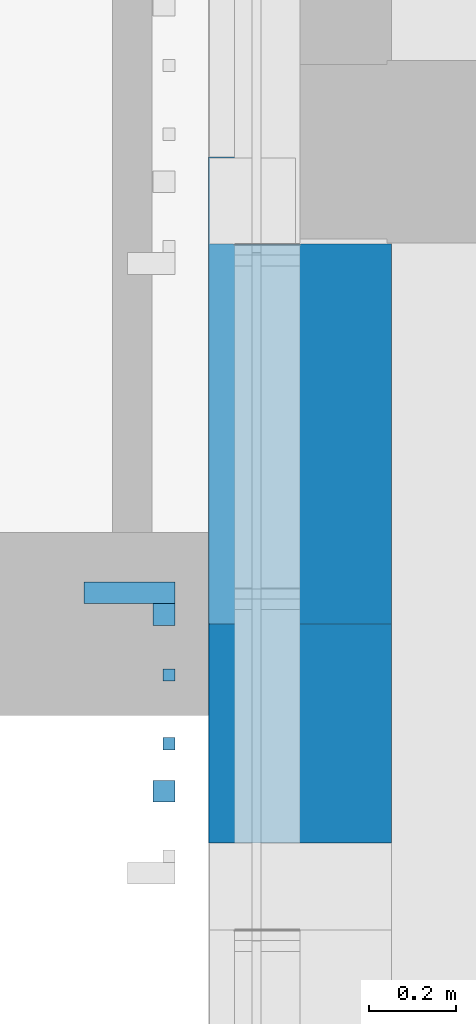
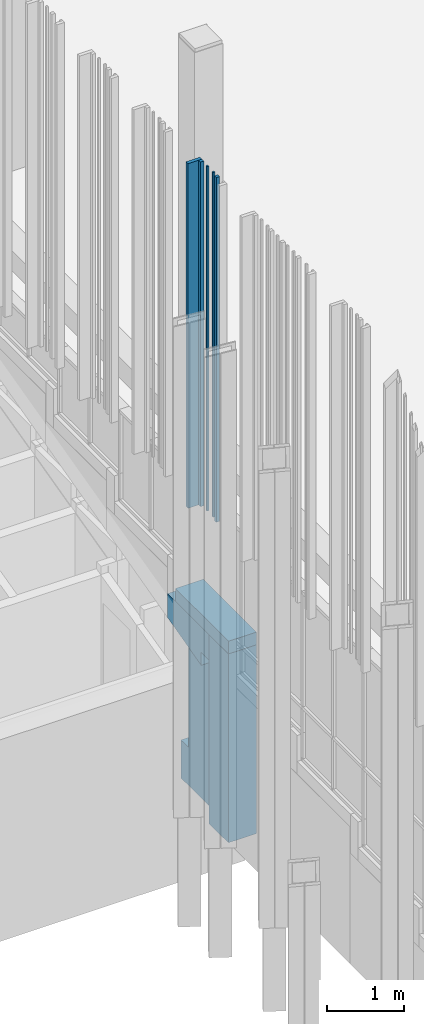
# One storey, part 117 of 390: 9 walls.
"""IFC2X3 building model written with IfcOpenShell, lengths in millimetres."""

from ifc_helpers import new_model, entity, si_unit, converted_unit, derived_unit, money_unit, direction, frame, origin_with_axes, place, context, subcontext, project, spatial, faceted_brep, material, material_list, type_object, element, save


model = new_model("IFC2X3")

# Units and contexts
model_context = context("Model", 3, precision=1e-05, world=origin_with_axes(), true_north=direction((0.0, 1.0)))
body_context = subcontext(model_context, "Body", "Model", "MODEL_VIEW")
ifc_project = project(units=[si_unit("LENGTHUNIT", "METRE", prefix="MILLI"), si_unit("AREAUNIT", "SQUARE_METRE"), si_unit("VOLUMEUNIT", "CUBIC_METRE"), converted_unit("PLANEANGLEUNIT", "DEGREE", entity("IfcPlaneAngleMeasure", 0.0174532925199), si_unit("PLANEANGLEUNIT", "RADIAN"), dimensions=[0, 0, 0, 0, 0, 0, 0]), si_unit("SOLIDANGLEUNIT", "STERADIAN"), money_unit("EUR"), converted_unit("TIMEUNIT", "Year", entity("IfcTimeMeasure", 31556926.0), si_unit("TIMEUNIT", "SECOND"), dimensions=[0, 0, 1, 0, 0, 0, 0]), si_unit("MASSUNIT", "GRAM", prefix="KILO"), si_unit("THERMODYNAMICTEMPERATUREUNIT", "DEGREE_CELSIUS"), si_unit("LUMINOUSINTENSITYUNIT", "LUMEN"), si_unit("ENERGYUNIT", "JOULE", prefix="MEGA"), derived_unit("THERMALCONDUCTANCEUNIT", [(si_unit("POWERUNIT", "WATT"), 1), (si_unit("LENGTHUNIT", "METRE"), -1), (si_unit("THERMODYNAMICTEMPERATUREUNIT", "KELVIN"), -1)]), derived_unit("SPECIFICHEATCAPACITYUNIT", [(si_unit("ENERGYUNIT", "JOULE"), 1), (si_unit("MASSUNIT", "GRAM", prefix="KILO"), -1), (si_unit("THERMODYNAMICTEMPERATUREUNIT", "KELVIN"), -1)]), derived_unit("MASSDENSITYUNIT", [(si_unit("MASSUNIT", "GRAM", prefix="KILO"), 1), (si_unit("VOLUMEUNIT", "CUBIC_METRE"), -1)])], contexts=[model_context])

# Site, building, storey
site_placement = place(None, origin_with_axes())
site = spatial("IfcSite", under=ifc_project, at=site_placement, Name="Site", CompositionType="ELEMENT")
building_placement = place(site_placement, origin_with_axes())
building = spatial("IfcBuilding", under=site, at=building_placement, Name="Building", CompositionType="ELEMENT")
storey_placement = place(building_placement, origin_with_axes())
storey = spatial("IfcBuildingStorey", under=building, at=storey_placement, Name="1 korrus", CompositionType="ELEMENT", Elevation=0.0)

# Walls
ifc_material_1 = material(Name="Krohv - Lubjakivi")
ifc_material_2 = material(Name="Raudbetoon - Konstruktsioon")
ifc_material_list_1 = material_list([ifc_material_1, ifc_material_2, ifc_material_1])
wall_type_1 = type_object("IfcWallType", Name="SS-10", PredefinedType="NOTDEFINED")
wall_1_placement = place(storey_placement, frame((122909.999995, 58590.0000093, -620.0), z_axis=(0.0, 0.0, 1.0), x_axis=(0.0, 1.0, 0.0)))
element("IfcWall", 1, at=wall_1_placement, inside=storey, type_object=wall_type_1, material=ifc_material_list_1, Name="SS-10", context=body_context, shape_type="Brep", body=[
    faceted_brep([(875.000002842, 219.999998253, 2551.52554973), (875.000002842, 210.000000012, 2551.52554973), (875.000002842, 210.000000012, 600.0), (875.000002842, 219.999998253, 600.0), (-2.80664380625e-09, 210.0, 2323.43989425), (-2.94164692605e-09, 220.0, 2323.43989425), (-2.81374923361e-09, 210.0, 0.0), (1072.56855077, 210.000000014, 0.0), (1072.56855077, 209.999998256, 600.0), (885.000002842, 209.999998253, 600.0), (1072.56855077, 219.999998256, 600.0), (1072.56855077, 220.000000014, 0.0), (-2.9487523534e-09, 220.0, 0.0)], [[[0, 1, 2, 3]], [[4, 1, 0, 5]], [[1, 4, 6, 7, 8, 9, 2]], [[2, 9, 8, 10, 3]], [[5, 0, 3, 10, 11, 12]], [[4, 5, 12, 6]], [[6, 12, 11, 7]], [[11, 10, 8, 7]]]),
    faceted_brep([(885.000002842, 209.999998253, 2554.13224292), (885.000002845, 10.0000000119, 2554.13224291), (885.000002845, 10.0000000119, 600.0), (885.000002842, 209.999998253, 600.0), (-1.20792265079e-10, 10.0, 2323.43989424), (-2.80664380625e-09, 210.0, 2323.43989425), (-1.27897692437e-10, 10.0, 0.0), (1072.56855077, 10.0000000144, 0.0), (1072.56855077, 10.0000000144, 600.0), (1072.56855077, 209.999998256, 600.0), (1072.56855077, 210.000000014, 0.0), (-2.81374923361e-09, 210.0, 0.0)], [[[0, 1, 2, 3]], [[4, 1, 0, 5]], [[1, 4, 6, 7, 8, 2]], [[3, 2, 8, 9]], [[5, 0, 3, 9, 10, 11]], [[4, 5, 11, 6]], [[6, 11, 10, 7]], [[10, 9, 8, 7]]]),
    faceted_brep([(875.000002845, 9.99999993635, 2551.52554971), (875.000002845, 1.17381659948e-08, 2551.52554971), (875.000002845, 1.17381659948e-08, 600.0), (875.000002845, 9.99999707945, 600.0), (0.0, 0.0, 2323.43989424), (-1.20792265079e-10, 9.99999963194, 2323.43989424), (0.0, 0.0, 400.0), (1072.56855077, 1.43813849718e-08, 400.0), (1072.56855077, 1.43813849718e-08, 600.0), (1072.56855077, 9.9999973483, 600.0), (1072.56855077, 9.99999708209, 400.0), (-1.27897692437e-10, 9.99999709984, 400.0)], [[[0, 1, 2, 3]], [[4, 1, 0, 5]], [[1, 4, 6, 7, 8, 2]], [[8, 9, 3, 2]], [[5, 0, 3, 9, 10, 11]], [[4, 5, 11, 6]], [[6, 11, 10, 7]], [[10, 9, 8, 7]]]),
])
ifc_material_3 = material(Name="Membraan - Veekindel")
ifc_material_4 = material(Name="Soojustus - Plastik Kõva")
ifc_material_list_2 = material_list([ifc_material_3, ifc_material_3, ifc_material_4, ifc_material_4, ifc_material_2, ifc_material_1])
wall_type_2 = type_object("IfcWallType", Name="VS-03", PredefinedType="NOTDEFINED")
wall_2_placement = place(storey_placement, frame((122909.999995, 58590.0000093, 1703.43989424), z_axis=(0.0, 0.0, 1.0), x_axis=(0.0, 1.0, 0.0)))
element("IfcWall", 2, at=wall_2_placement, inside=storey, type_object=wall_type_2, material=ifc_material_list_2, Name="VS-03", context=body_context, shape_type="Brep", body=[
    faceted_brep([(199.999999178, 415.000000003, 52.1338637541), (1072.56855076, 415.000000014, 279.585714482), (1072.56855076, 415.000000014, 656.560105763), (-5.563549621e-09, 415.0, 656.560105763), (-2.15836593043e-06, 415.0, 257.890913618), (199.999997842, 415.000000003, 257.890913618), (1072.56855076, 420.000000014, 279.585714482), (199.999999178, 420.000000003, 52.1338637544), (1072.56855076, 420.000000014, 656.560105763), (-5.62749846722e-09, 420.0, 656.560105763), (-2.15842987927e-06, 420.0, 257.890913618), (199.999997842, 420.000000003, 257.890913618)], [[[0, 1, 2, 3, 4, 5]], [[6, 1, 0, 7]], [[1, 6, 8, 2]], [[9, 3, 2, 8]], [[9, 10, 4, 3]], [[11, 5, 4, 10]], [[7, 0, 5, 11]], [[6, 7, 11, 10, 9, 8]]]),
    faceted_brep([(199.999999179, 410.000000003, 52.1338637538), (1072.56855076, 410.000000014, 279.585714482), (1072.56855076, 410.000000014, 656.560105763), (-5.49249534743e-09, 410.0, 656.560105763), (-2.15829487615e-06, 410.0, 257.890913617), (199.999997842, 410.000000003, 257.890913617), (1072.56855076, 415.000000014, 279.585714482), (199.999999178, 415.000000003, 52.1338637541), (1072.56855076, 415.000000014, 656.560105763), (-5.563549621e-09, 415.0, 656.560105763), (-2.15836593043e-06, 415.0, 257.890913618), (199.999997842, 415.000000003, 257.890913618)], [[[0, 1, 2, 3, 4, 5]], [[6, 1, 0, 7]], [[1, 6, 8, 2]], [[9, 3, 2, 8]], [[9, 10, 4, 3]], [[11, 5, 4, 10]], [[7, 0, 5, 11]], [[6, 7, 11, 10, 9, 8]]]),
    faceted_brep([(199.999999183, 360.000000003, 52.1338637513), (1072.56855076, 360.000000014, 279.585714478), (1072.56855076, 360.000000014, 656.560105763), (-4.82458517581e-09, 360.0, 656.560105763), (-2.15762696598e-06, 360.0, 257.89091361), (199.999997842, 360.000000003, 257.89091361), (1072.56855076, 410.000000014, 279.585714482), (199.999999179, 410.000000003, 52.1338637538), (1072.56855076, 410.000000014, 656.560105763), (-5.49249534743e-09, 410.0, 656.560105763), (-2.15829487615e-06, 410.0, 257.890913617), (199.999997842, 410.000000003, 257.890913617)], [[[0, 1, 2, 3, 4, 5]], [[6, 1, 0, 7]], [[1, 6, 8, 2]], [[9, 3, 2, 8]], [[9, 10, 4, 3]], [[11, 5, 4, 10]], [[7, 0, 5, 11]], [[6, 7, 11, 10, 9, 8]]]),
    faceted_brep([(199.999999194, 210.000000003, 52.1338637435), (1072.56855076, 210.000000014, 279.585714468), (1072.56855076, 210.000000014, 656.560105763), (-2.81374923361e-09, 210.0, 656.560105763), (-2.15561613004e-06, 210.0, 257.89091359), (199.999997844, 210.000000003, 257.89091359), (1072.56855076, 360.000000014, 279.585714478), (199.999999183, 360.000000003, 52.1338637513), (1072.56855076, 360.000000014, 656.560105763), (-4.82458517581e-09, 360.0, 656.560105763), (-2.15762696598e-06, 360.0, 257.89091361), (199.999997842, 360.000000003, 257.89091361)], [[[0, 1, 2, 3, 4, 5]], [[6, 1, 0, 7]], [[1, 6, 8, 2]], [[9, 3, 2, 8]], [[9, 10, 4, 3]], [[11, 5, 4, 10]], [[7, 0, 5, 11]], [[6, 7, 11, 10, 9, 8]]]),
    faceted_brep([(-1.20792265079e-10, 10.0, 0.0), (1072.56855076, 10.0000000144, 279.585714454), (1072.56855076, 10.0000000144, 656.560105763), (-1.27897692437e-10, 10.0, 656.560105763), (1072.56855076, 210.000000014, 279.585714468), (-2.80664380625e-09, 210.0, 1.3760770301e-08), (1072.56855076, 210.000000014, 656.560105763), (-2.81374923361e-09, 210.0, 656.560105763)], [[[0, 1, 2, 3]], [[4, 1, 0, 5]], [[1, 4, 6, 2]], [[3, 2, 6, 7]], [[5, 0, 3, 7]], [[4, 5, 7, 6]]]),
    faceted_brep([(0.0, 0.0, -6.88560319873e-10), (1072.56855076, 1.43813849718e-08, 279.585714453), (1072.56855076, 1.43813849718e-08, 656.560105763), (0.0, 0.0, 656.560105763), (1072.56855076, 10.0000000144, 279.585714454), (-1.20792265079e-10, 10.0, 0.0), (1072.56855076, 10.0000000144, 656.560105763), (-1.27897692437e-10, 10.0, 656.560105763)], [[[0, 1, 2, 3]], [[4, 1, 0, 5]], [[1, 4, 6, 2]], [[3, 2, 6, 7]], [[5, 0, 3, 7]], [[4, 5, 7, 6]]]),
])
wall_3_placement = place(storey_placement, frame((122909.999995, 58087.5685601, -620.0), z_axis=(0.0, 0.0, 1.0), x_axis=(0.0, 1.0, 0.0)))
element("IfcWall", 3, at=wall_3_placement, inside=storey, type_object=wall_type_2, material=ifc_material_list_2, Name="VS-03", context=body_context, shape_type="Brep", body=[
    faceted_brep([(502.431449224, 420.000000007, 0.0), (502.431449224, 415.000000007, 0.0), (-5.563549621e-09, 415.0, 0.0), (-5.63460389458e-09, 420.0, 0.0), (502.431449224, 420.000000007, 2980.0), (502.431449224, 415.000000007, 2980.0), (-5.563549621e-09, 415.0, 2980.0), (-5.63460389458e-09, 420.0, 2980.0)], [[[0, 1, 2, 3]], [[0, 4, 5, 1]], [[1, 5, 6, 2]], [[3, 2, 6, 7]], [[4, 0, 3, 7]], [[5, 4, 7, 6]]]),
    faceted_brep([(502.431449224, 415.000000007, 0.0), (502.431449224, 410.000000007, 0.0), (-5.49960077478e-09, 410.0, 0.0), (-5.563549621e-09, 415.0, 0.0), (502.431449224, 415.000000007, 2980.0), (502.431449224, 410.000000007, 2980.0), (-5.49960077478e-09, 410.0, 2980.0), (-5.563549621e-09, 415.0, 2980.0)], [[[0, 1, 2, 3]], [[0, 4, 5, 1]], [[1, 5, 6, 2]], [[3, 2, 6, 7]], [[4, 0, 3, 7]], [[5, 4, 7, 6]]]),
    faceted_brep([(502.431449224, 410.000000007, 0.0), (502.431449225, 360.000000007, 0.0), (-4.83169060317e-09, 360.0, 0.0), (-5.49960077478e-09, 410.0, 0.0), (502.431449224, 410.000000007, 2980.0), (502.431449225, 360.000000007, 2980.0), (-4.83169060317e-09, 360.0, 2980.0), (-5.49960077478e-09, 410.0, 2980.0)], [[[0, 1, 2, 3]], [[0, 4, 5, 1]], [[1, 5, 6, 2]], [[3, 2, 6, 7]], [[4, 0, 3, 7]], [[5, 4, 7, 6]]]),
    faceted_brep([(502.431449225, 360.000000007, 0.0), (502.431449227, 210.000000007, 0.0), (-2.82085466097e-09, 210.0, 0.0), (-4.83169060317e-09, 360.0, 0.0), (502.431449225, 360.000000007, 2980.0), (502.431449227, 210.000000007, 2980.0), (-2.82085466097e-09, 210.0, 2980.0), (-4.83169060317e-09, 360.0, 2980.0)], [[[0, 1, 2, 3]], [[0, 4, 5, 1]], [[1, 5, 6, 2]], [[3, 2, 6, 7]], [[4, 0, 3, 7]], [[5, 4, 7, 6]]]),
    faceted_brep([(502.431449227, 210.000000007, 0.0), (502.43144923, 10.0000000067, 0.0), (-1.35003119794e-10, 10.0, 0.0), (-2.82085466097e-09, 210.0, 0.0), (502.431449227, 210.000000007, 2980.0), (502.43144923, 10.0000000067, 2980.0), (-1.35003119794e-10, 10.0, 2980.0), (-2.82085466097e-09, 210.0, 2980.0)], [[[0, 1, 2, 3]], [[0, 4, 5, 1]], [[1, 5, 6, 2]], [[3, 2, 6, 7]], [[4, 0, 3, 7]], [[5, 4, 7, 6]]]),
    faceted_brep([(502.43144923, 10.0000000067, 0.0), (502.43144923, 6.73594513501e-09, 0.0), (0.0, 0.0, 0.0), (-1.35003119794e-10, 10.0, 0.0), (502.43144923, 10.0000000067, 2980.0), (502.43144923, 6.73594513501e-09, 2980.0), (0.0, 0.0, 2980.0), (-1.35003119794e-10, 10.0, 2980.0)], [[[0, 1, 2, 3]], [[0, 4, 5, 1]], [[1, 5, 6, 2]], [[3, 2, 6, 7]], [[4, 0, 3, 7]], [[5, 4, 7, 6]]]),
])
ifc_material_5 = material(Name="Site specified")
wall_type_3 = type_object("IfcWallType", Name="Puitfassaadi ribistik", PredefinedType="NOTDEFINED")
wall_4_placement = place(storey_placement, frame((122308.499996, 58661.9999924, 4424.99966101), z_axis=(0.0, 0.0, 1.0), x_axis=(0.0, 1.0, 0.0)))
element("IfcWall", 4, at=wall_4_placement, inside=storey, type_object=wall_type_3, material=ifc_material_5, Name="Site specified", context=body_context, shape_type="Brep", body=[
    faceted_brep([(25.0, 104.5, 5440.00033899), (25.0, 104.5, 0.0), (-25.0, 104.5, 0.0), (-25.0, 104.5, 5440.00033899), (25.0, -104.5, 5440.00033899), (25.0, -104.5, 0.0), (-25.0, -104.5, 0.0), (-25.0, -104.5, 5440.00033899)], [[[0, 1, 2, 3]], [[4, 5, 1, 0]], [[2, 1, 5, 6]], [[3, 2, 6, 7]], [[4, 0, 3, 7]], [[7, 6, 5, 4]]]),
])
wall_5_placement = place(storey_placement, frame((122398.999996, 58472.9999924, 4424.99966101), z_axis=(0.0, 0.0, 1.0), x_axis=(0.0, 1.0, 0.0)))
element("IfcWall", 5, at=wall_5_placement, inside=storey, type_object=wall_type_3, material=ifc_material_5, Name="Site specified", context=body_context, shape_type="Brep", body=[
    faceted_brep([(14.0, 14.0, 5440.00033899), (14.0, 14.0, 0.0), (-14.0, 14.0, 0.0), (-14.0, 14.0, 5440.00033899), (14.0, -14.0, 5440.00033899), (14.0, -14.0, 0.0), (-14.0, -14.0, 0.0), (-14.0, -14.0, 5440.00033899)], [[[0, 1, 2, 3]], [[4, 5, 1, 0]], [[2, 1, 5, 6]], [[3, 2, 6, 7]], [[4, 0, 3, 7]], [[7, 6, 5, 4]]]),
])
wall_6_placement = place(storey_placement, frame((122387.999996, 58205.9999924, 4424.99966101), z_axis=(0.0, 0.0, 1.0), x_axis=(0.0, 1.0, 0.0)))
element("IfcWall", 6, at=wall_6_placement, inside=storey, type_object=wall_type_3, material=ifc_material_5, Name="Site specified", context=body_context, shape_type="Brep", body=[
    faceted_brep([(25.0, 25.0, 5440.00033899), (25.0, 25.0, 0.0), (-25.0, 25.0, 0.0), (-25.0, 25.0, 5440.00033899), (25.0, -25.0, 5440.00033899), (25.0, -25.0, 0.0), (-25.0, -25.0, 0.0), (-25.0, -25.0, 5440.00033899)], [[[0, 1, 2, 3]], [[4, 5, 1, 0]], [[2, 1, 5, 6]], [[3, 2, 6, 7]], [[4, 0, 3, 7]], [[7, 6, 5, 4]]]),
])
wall_7_placement = place(storey_placement, frame((122398.999996, 58314.9999924, 4424.99966101), z_axis=(0.0, 0.0, 1.0), x_axis=(0.0, 1.0, 0.0)))
element("IfcWall", 7, at=wall_7_placement, inside=storey, type_object=wall_type_3, material=ifc_material_5, Name="Site specified", context=body_context, shape_type="Brep", body=[
    faceted_brep([(14.0, 14.0, 5440.00033899), (14.0, 14.0, 0.0), (-14.0, 14.0, 0.0), (-14.0, 14.0, 5440.00033899), (14.0, -14.0, 5440.00033899), (14.0, -14.0, 0.0), (-14.0, -14.0, 0.0), (-14.0, -14.0, 5440.00033899)], [[[0, 1, 2, 3]], [[4, 5, 1, 0]], [[2, 1, 5, 6]], [[3, 2, 6, 7]], [[4, 0, 3, 7]], [[7, 6, 5, 4]]]),
])
wall_8_placement = place(storey_placement, frame((122387.999996, 58611.9999924, 4424.99966101), z_axis=(0.0, 0.0, 1.0), x_axis=(0.0, 1.0, 0.0)))
element("IfcWall", 8, at=wall_8_placement, inside=storey, type_object=wall_type_3, material=ifc_material_5, Name="Site specified", context=body_context, shape_type="Brep", body=[
    faceted_brep([(25.0, 25.0, 5440.00033899), (25.0, 25.0, 0.0), (-25.0, 25.0, 0.0), (-25.0, 25.0, 5440.00033899), (25.0, -25.0, 5440.00033899), (25.0, -25.0, 0.0), (-25.0, -25.0, 0.0), (-25.0, -25.0, 5440.00033899)], [[[0, 1, 2, 3]], [[4, 5, 1, 0]], [[2, 1, 5, 6]], [[3, 2, 6, 7]], [[4, 0, 3, 7]], [[7, 6, 5, 4]]]),
])
ifc_material_6 = material(Name="Plaat - Sein")
ifc_material_list_3 = material_list([ifc_material_6, ifc_material_4, ifc_material_4, ifc_material_2, ifc_material_1])
wall_type_4 = type_object("IfcWallType", Name="VS-05", PredefinedType="NOTDEFINED")
wall_9_placement = place(storey_placement, frame((122909.999995, 58087.5685601, 2360.0), z_axis=(0.0, 0.0, 1.0), x_axis=(0.0, 1.0, 0.0)))
element("IfcWall", 9, at=wall_9_placement, inside=storey, type_object=wall_type_4, material=ifc_material_list_3, Name="VS-05", context=body_context, shape_type="Brep", body=[
    faceted_brep([(1374.99999999, 418.000000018, 0.0), (1374.99999999, 410.000000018, 0.0), (-5.49249534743e-09, 410.0, 0.0), (-5.59907675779e-09, 418.0, 0.0), (1374.99999999, 418.000000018, 200.0), (1374.99999999, 410.000000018, 200.0), (-5.49249534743e-09, 410.0, 200.0), (-5.59907675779e-09, 418.0, 200.0)], [[[0, 1, 2, 3]], [[0, 4, 5, 1]], [[1, 5, 6, 2]], [[3, 2, 6, 7]], [[4, 0, 3, 7]], [[5, 4, 7, 6]]]),
    faceted_brep([(1374.99999999, 410.000000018, 0.0), (1375.0, 360.000000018, 0.0), (-4.82458517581e-09, 360.0, 0.0), (-5.49249534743e-09, 410.0, 0.0), (1374.99999999, 410.000000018, 200.0), (1375.0, 360.000000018, 200.0), (-4.82458517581e-09, 360.0, 200.0), (-5.49249534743e-09, 410.0, 200.0)], [[[0, 1, 2, 3]], [[0, 4, 5, 1]], [[1, 5, 6, 2]], [[3, 2, 6, 7]], [[4, 0, 3, 7]], [[5, 4, 7, 6]]]),
    faceted_brep([(1375.0, 360.000000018, 0.0), (1375.0, 210.000000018, 0.0), (-2.81374923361e-09, 210.0, 0.0), (-4.82458517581e-09, 360.0, 0.0), (1375.0, 360.000000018, 200.0), (1375.0, 210.000000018, 200.0), (-2.81374923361e-09, 210.0, 200.0), (-4.82458517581e-09, 360.0, 200.0)], [[[0, 1, 2, 3]], [[0, 4, 5, 1]], [[1, 5, 6, 2]], [[3, 2, 6, 7]], [[4, 0, 3, 7]], [[5, 4, 7, 6]]]),
    faceted_brep([(1375.0, 210.000000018, 0.0), (1375.0, 10.0000000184, 0.0), (-1.35003119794e-10, 10.0, 0.0), (-2.81374923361e-09, 210.0, 0.0), (1375.0, 210.000000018, 200.0), (1375.0, 10.0000000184, 200.0), (-1.35003119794e-10, 10.0, 200.0), (-2.81374923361e-09, 210.0, 200.0)], [[[0, 1, 2, 3]], [[0, 4, 5, 1]], [[1, 5, 6, 2]], [[3, 2, 6, 7]], [[4, 0, 3, 7]], [[5, 4, 7, 6]]]),
    faceted_brep([(1375.0, 10.0000000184, 0.0), (1375.0, 1.84314785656e-08, 0.0), (0.0, 0.0, 0.0), (-1.35003119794e-10, 10.0, 0.0), (1375.0, 10.0000000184, 200.0), (1375.0, 1.84314785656e-08, 200.0), (0.0, 0.0, 200.0), (-1.35003119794e-10, 10.0, 200.0)], [[[0, 1, 2, 3]], [[0, 4, 5, 1]], [[1, 5, 6, 2]], [[3, 2, 6, 7]], [[4, 0, 3, 7]], [[5, 4, 7, 6]]]),
])

save(model, "model.ifc")
